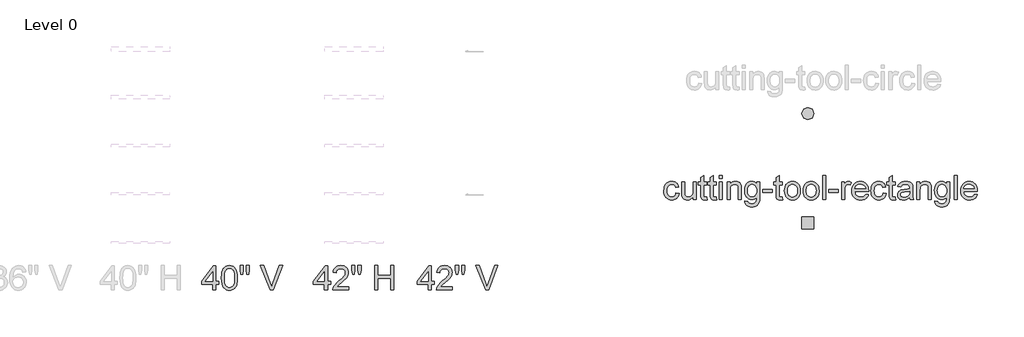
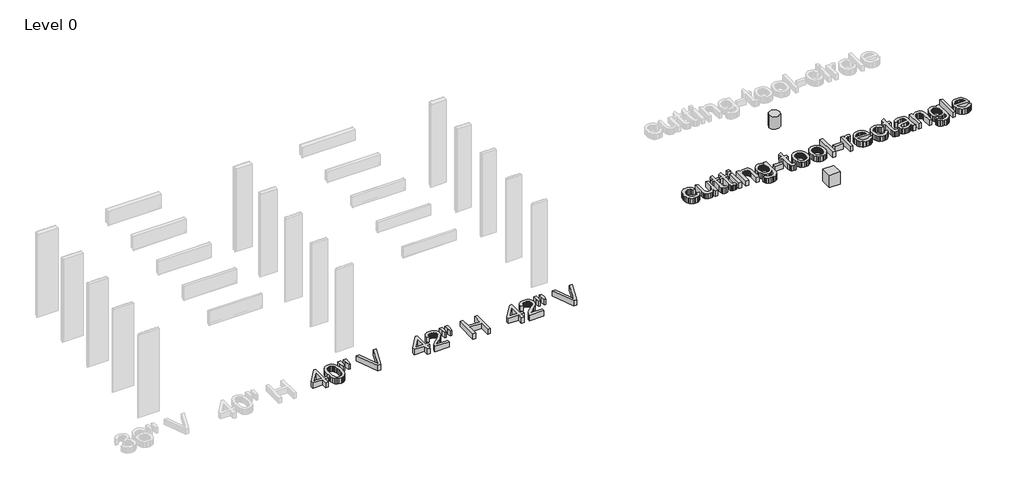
# One storey, part 4 of 5: 6 proxies.
"""IFC4 building model written with IfcOpenShell, lengths in millimetres."""

from ifc_helpers import new_model, si_unit, origin, origin_with_axes, place, context, project, spatial, polyline, outline, extrude, transform, mapped, element, save
from components import kingspan_ks_cutting_tool_circle_cutting_tool_circle_f6fe257a, kingspan_ks_cutting_tool_rectangle_cutting_tool_rectangle_f435e5aa

model = new_model("IFC4")

# Units and contexts
model_context = context("Model", 3, world=origin())
ifc_project = project(units=[si_unit("LENGTHUNIT", "METRE", prefix="MILLI")], contexts=[model_context])

# Site, building, storey
site = spatial("IfcSite", under=ifc_project)
building = spatial("IfcBuilding", under=site)
storey = spatial("IfcBuildingStorey", under=building, Name="Level 0", Elevation=0.0)

# Proxies
placement = place(None, origin())
element("IfcBuildingElementProxy", 1, Name="24\" Arial", ObjectType="24\" Arial", at=placement, inside=storey, context=model_context, shape_type="SweptSolid", body=[
    extrude(outline(polyline([(-11980.2863907, 7226.0033745), (-11980.2863907, 7368.7691999), (-12256.3003197, 7368.7691999), (-12256.3003197, 7444.9109734), (-11961.2509473, 7825.619841), (-11904.1446171, 7825.619841), (-11904.1446171, 7444.9109734), (-11828.0028436, 7444.9109734), (-11828.0028436, 7368.7691999), (-11904.1446171, 7368.7691999), (-11904.1446171, 7226.0033745), (-11980.2863907, 7226.0033745)]), holes=[polyline([(-11980.2863907, 7444.9109734), (-11980.2863907, 7680.1771564), (-12162.6102468, 7444.9109734), (-11980.2863907, 7444.9109734)])]), origin_with_axes(), (0.0, 0.0, 1.0), 152.4),
    extrude(outline(polyline([(-11761.3787918, 7525.6628934), (-11755.7834124, 7623.1637728), (-11748.7891882, 7664.5110237), (-11738.9972744, 7700.9228154), (-11726.4494968, 7732.6965767), (-11711.1876813, 7760.1297365), (-11693.211828, 7783.2222946), (-11672.521937, 7801.9742512), (-11649.0482982, 7816.4831999), (-11622.7212018, 7826.8467348), (-11593.5406478, 7833.0648557), (-11561.5066363, 7835.1375627), (-11514.5872427, 7830.2299874), (-11472.5754243, 7815.5072617), (-11437.4416469, 7791.5456538), (-11411.1563765, 7758.921432), (-11391.3030039, 7717.9134358), (-11375.4649202, 7668.8005047), (-11365.0920907, 7606.4334026), (-11361.6344808, 7525.6628934), (-11367.1740923, 7428.7196929), (-11374.0986066, 7387.5118618), (-11383.7929266, 7351.1465433), (-11396.2431104, 7319.35884), (-11411.435216, 7291.8838544), (-11429.3692433, 7268.7215863), (-11450.0451925, 7249.872036), (-11473.5467152, 7235.2654933), (-11499.9574634, 7224.8322486), (-11529.2774371, 7218.5723018), (-11561.5066363, 7216.4856528), (-11603.4440975, 7220.1105664), (-11640.6226979, 7230.985307), (-11673.0424374, 7249.1098747), (-11700.703316, 7274.4842694), (-11727.2488367, 7320.3533676), (-11746.2099228, 7377.506171), (-11757.5865746, 7445.9426796), (-11761.3787918, 7525.6628934)]), holes=[polyline([(-11685.2370183, 7525.8116078), (-11683.0063023, 7459.6197572), (-11676.3141542, 7406.0407467), (-11665.1605741, 7365.0745765), (-11649.5455619, 7336.7212464), (-11630.658833, 7317.4302001), (-11609.6901024, 7303.6508814), (-11586.6393701, 7295.3832901), (-11561.5066363, 7292.6274264), (-11536.3739025, 7295.3925848), (-11513.3231703, 7303.68806), (-11492.3544397, 7317.513852), (-11473.4677107, 7336.8699608), (-11457.8526985, 7365.2697641), (-11446.6991184, 7406.2266397), (-11440.0069704, 7459.7405876), (-11437.7762543, 7525.8116078), (-11439.9326132, 7590.2514168), (-11446.4016896, 7642.8870203), (-11457.1834837, 7683.7184181), (-11472.2779955, 7712.7456103), (-11490.8487063, 7732.9800636), (-11512.0590978, 7747.4332444), (-11535.90917, 7756.105153), (-11562.3989227, 7758.9957892), (-11587.4015315, 7756.449055), (-11610.0618884, 7748.8088527), (-11630.3799935, 7736.075182), (-11648.3558467, 7718.2480432), (-11664.4913593, 7686.6462329), (-11676.0167254, 7644.0395569), (-11682.9319451, 7590.4280152), (-11685.2370183, 7525.8116078)])]), origin_with_axes(), (0.0, 0.0, 1.0), 152.4),
    extrude(outline(polyline([(-11276.4211288, 7616.2299638), (-11295.010429, 7733.8630553), (-11295.010429, 7835.1375627), (-11218.8686555, 7835.1375627), (-11218.8686555, 7733.8630553), (-11235.5246684, 7616.2299638), (-11276.4211288, 7616.2299638)])), origin_with_axes(), (0.0, 0.0, 1.0), 152.4),
    extrude(outline(polyline([(-11124.583725, 7616.2299638), (-11142.726882, 7733.8630553), (-11142.726882, 7835.1375627), (-11066.5851084, 7835.1375627), (-11066.5851084, 7733.8630553), (-11084.4308366, 7616.2299638), (-11124.583725, 7616.2299638)])), origin_with_axes(), (0.0, 0.0, 1.0), 152.4),
    extrude(outline(polyline([(-10544.0027019, 7226.0033745), (-10786.4071762, 7835.1375627), (-10704.9116842, 7835.1375627), (-10542.6642723, 7396.2813641), (-10509.7983896, 7297.3862872), (-10477.3786501, 7396.2813641), (-10314.685095, 7835.1375627), (-10233.189603, 7835.1375627), (-10465.3327836, 7226.0033745), (-10544.0027019, 7226.0033745)])), origin_with_axes(), (0.0, 0.0, 1.0), 152.4),
])
element("IfcBuildingElementProxy", 2, Name="24\" Arial", ObjectType="24\" Arial", at=placement, inside=storey, context=model_context, shape_type="SweptSolid", body=[
    extrude(outline(polyline([(-9186.2863907, 7226.0033745), (-9186.2863907, 7368.7691999), (-9462.3003197, 7368.7691999), (-9462.3003197, 7444.9109734), (-9167.2509473, 7825.619841), (-9110.1446171, 7825.619841), (-9110.1446171, 7444.9109734), (-9034.0028436, 7444.9109734), (-9034.0028436, 7368.7691999), (-9110.1446171, 7368.7691999), (-9110.1446171, 7226.0033745), (-9186.2863907, 7226.0033745)]), holes=[polyline([(-9186.2863907, 7444.9109734), (-9186.2863907, 7680.1771564), (-9368.6102468, 7444.9109734), (-9186.2863907, 7444.9109734)])]), origin_with_axes(), (0.0, 0.0, 1.0), 152.4),
    extrude(outline(polyline([(-8577.1522025, 7302.1451481), (-8577.1522025, 7226.0033745), (-8976.8965135, 7226.0033745), (-8975.2234765, 7252.8091454), (-8968.7172214, 7278.4995582), (-8949.9420282, 7319.5261437), (-8922.4670426, 7359.3258354), (-8882.7231188, 7400.9844571), (-8827.1411113, 7447.5878326), (-8744.9764045, 7520.5694251), (-8695.6775804, 7574.441217), (-8681.2987567, 7596.4509484), (-8671.0281684, 7618.163251), (-8664.8658154, 7639.5781248), (-8662.8116977, 7660.6955698), (-8664.7496323, 7680.5628844), (-8670.5634359, 7698.8222245), (-8680.2531086, 7715.4735901), (-8693.8186504, 7730.5169813), (-8710.5071946, 7742.9764597), (-8729.5658747, 7751.8760872), (-8750.9946904, 7757.2158637), (-8774.793642, 7758.9957892), (-8799.8659606, 7757.2576896), (-8822.2893039, 7752.0433909), (-8842.063672, 7743.3528931), (-8859.1890648, 7731.1861961), (-8873.0427407, 7715.9522646), (-8883.0019583, 7698.0600632), (-8889.0667175, 7677.5095918), (-8891.2370183, 7654.3008506), (-8967.3787918, 7663.8185723), (-8960.8307108, 7703.1256475), (-8948.9196167, 7737.4693796), (-8931.6455095, 7766.8497685), (-8909.0083892, 7791.2668143), (-8881.5287563, 7810.4602667), (-8849.727111, 7824.1698756), (-8813.6034534, 7832.3956409), (-8773.1577836, 7835.1375627), (-8732.3496224, 7832.0889174), (-8696.0307771, 7822.9429818), (-8664.2012479, 7807.6997556), (-8636.8610347, 7786.359239), (-8614.9024238, 7760.5015225), (-8599.2177018, 7731.7066965), (-8589.8068686, 7699.9747611), (-8586.6699242, 7665.3057163), (-8590.0531768, 7628.8892772), (-8600.2029347, 7593.1048744), (-8618.2159666, 7556.7070247), (-8645.1890412, 7518.4502449), (-8688.1860925, 7472.7763344), (-8754.2710546, 7414.1270923), (-8841.863837, 7340.8852496), (-8876.2168637, 7302.1451481), (-8577.1522025, 7302.1451481)])), origin_with_axes(), (0.0, 0.0, 1.0), 152.4),
    extrude(outline(polyline([(-8482.4211288, 7616.2299638), (-8501.010429, 7733.8630553), (-8501.010429, 7835.1375627), (-8424.8686555, 7835.1375627), (-8424.8686555, 7733.8630553), (-8441.5246684, 7616.2299638), (-8482.4211288, 7616.2299638)])), origin_with_axes(), (0.0, 0.0, 1.0), 152.4),
    extrude(outline(polyline([(-8330.583725, 7616.2299638), (-8348.726882, 7733.8630553), (-8348.726882, 7835.1375627), (-8272.5851084, 7835.1375627), (-8272.5851084, 7733.8630553), (-8290.4308366, 7616.2299638), (-8330.583725, 7616.2299638)])), origin_with_axes(), (0.0, 0.0, 1.0), 152.4),
    extrude(outline(polyline([(-7929.9471276, 7226.0033745), (-7929.9471276, 7835.1375627), (-7853.8053541, 7835.1375627), (-7853.8053541, 7587.6767987), (-7530.2028167, 7587.6767987), (-7530.2028167, 7835.1375627), (-7454.0610431, 7835.1375627), (-7454.0610431, 7226.0033745), (-7530.2028167, 7226.0033745), (-7530.2028167, 7511.5350252), (-7853.8053541, 7511.5350252), (-7853.8053541, 7226.0033745), (-7929.9471276, 7226.0033745)])), origin_with_axes(), (0.0, 0.0, 1.0), 152.4),
])
element("IfcBuildingElementProxy", 3, Name="24\" Arial", ObjectType="24\" Arial", at=placement, inside=storey, context=model_context, shape_type="SweptSolid", body=[
    extrude(outline(polyline([(-6595.4863907, 7226.0033745), (-6595.4863907, 7368.7691999), (-6871.5003197, 7368.7691999), (-6871.5003197, 7444.9109734), (-6576.4509473, 7825.619841), (-6519.3446171, 7825.619841), (-6519.3446171, 7444.9109734), (-6443.2028436, 7444.9109734), (-6443.2028436, 7368.7691999), (-6519.3446171, 7368.7691999), (-6519.3446171, 7226.0033745), (-6595.4863907, 7226.0033745)]), holes=[polyline([(-6595.4863907, 7444.9109734), (-6595.4863907, 7680.1771564), (-6777.8102468, 7444.9109734), (-6595.4863907, 7444.9109734)])]), origin_with_axes(), (0.0, 0.0, 1.0), 152.4),
    extrude(outline(polyline([(-5986.3522025, 7302.1451481), (-5986.3522025, 7226.0033745), (-6386.0965135, 7226.0033745), (-6384.4234765, 7252.8091454), (-6377.9172214, 7278.4995582), (-6359.1420282, 7319.5261437), (-6331.6670426, 7359.3258354), (-6291.9231188, 7400.9844571), (-6236.3411113, 7447.5878326), (-6154.1764045, 7520.5694251), (-6104.8775804, 7574.441217), (-6090.4987567, 7596.4509484), (-6080.2281684, 7618.163251), (-6074.0658154, 7639.5781248), (-6072.0116977, 7660.6955698), (-6073.9496323, 7680.5628844), (-6079.7634359, 7698.8222245), (-6089.4531086, 7715.4735901), (-6103.0186504, 7730.5169813), (-6119.7071946, 7742.9764597), (-6138.7658747, 7751.8760872), (-6160.1946904, 7757.2158637), (-6183.993642, 7758.9957892), (-6209.0659606, 7757.2576896), (-6231.4893039, 7752.0433909), (-6251.263672, 7743.3528931), (-6268.3890648, 7731.1861961), (-6282.2427407, 7715.9522646), (-6292.2019583, 7698.0600632), (-6298.2667175, 7677.5095918), (-6300.4370183, 7654.3008506), (-6376.5787918, 7663.8185723), (-6370.0307108, 7703.1256475), (-6358.1196167, 7737.4693796), (-6340.8455095, 7766.8497685), (-6318.2083892, 7791.2668143), (-6290.7287563, 7810.4602667), (-6258.927111, 7824.1698756), (-6222.8034534, 7832.3956409), (-6182.3577836, 7835.1375627), (-6141.5496224, 7832.0889174), (-6105.2307771, 7822.9429818), (-6073.4012479, 7807.6997556), (-6046.0610347, 7786.359239), (-6024.1024238, 7760.5015225), (-6008.4177018, 7731.7066965), (-5999.0068686, 7699.9747611), (-5995.8699242, 7665.3057163), (-5999.2531768, 7628.8892772), (-6009.4029347, 7593.1048744), (-6027.4159666, 7556.7070247), (-6054.3890412, 7518.4502449), (-6097.3860925, 7472.7763344), (-6163.4710546, 7414.1270923), (-6251.063837, 7340.8852496), (-6285.4168637, 7302.1451481), (-5986.3522025, 7302.1451481)])), origin_with_axes(), (0.0, 0.0, 1.0), 152.4),
    extrude(outline(polyline([(-5891.6211288, 7616.2299638), (-5910.210429, 7733.8630553), (-5910.210429, 7835.1375627), (-5834.0686555, 7835.1375627), (-5834.0686555, 7733.8630553), (-5850.7246684, 7616.2299638), (-5891.6211288, 7616.2299638)])), origin_with_axes(), (0.0, 0.0, 1.0), 152.4),
    extrude(outline(polyline([(-5739.783725, 7616.2299638), (-5757.926882, 7733.8630553), (-5757.926882, 7835.1375627), (-5681.7851084, 7835.1375627), (-5681.7851084, 7733.8630553), (-5699.6308366, 7616.2299638), (-5739.783725, 7616.2299638)])), origin_with_axes(), (0.0, 0.0, 1.0), 152.4),
    extrude(outline(polyline([(-5159.2027019, 7226.0033745), (-5401.6071762, 7835.1375627), (-5320.1116842, 7835.1375627), (-5157.8642723, 7396.2813641), (-5124.9983896, 7297.3862872), (-5092.5786501, 7396.2813641), (-4929.885095, 7835.1375627), (-4848.389603, 7835.1375627), (-5080.5327836, 7226.0033745), (-5159.2027019, 7226.0033745)])), origin_with_axes(), (0.0, 0.0, 1.0), 152.4),
])
element("IfcBuildingElementProxy", 4, Name="24\" Arial", ObjectType="24\" Arial", at=placement, inside=storey, context=model_context, shape_type="SweptSolid", body=[
    extrude(outline(polyline([(-396.2597045, 9648.2737674), (-320.117931, 9638.7560457), (-328.3994642, 9602.8275758), (-341.3469118, 9571.0352252), (-358.9602737, 9543.3789938), (-381.23955, 9519.8588818), (-407.2459809, 9501.0883359), (-436.0408069, 9487.6808032), (-467.6240279, 9479.6362835), (-501.9956439, 9476.954777), (-544.6999137, 9480.6958736), (-582.9892248, 9491.9191636), (-616.863577, 9510.6246469), (-646.3229705, 9536.8123235), (-670.1683953, 9569.989577), (-687.2008416, 9609.6637909), (-697.4203093, 9655.8349652), (-700.8267986, 9708.5031), (-695.0083476, 9776.2610991), (-687.7352839, 9806.7521987), (-677.5529948, 9834.9846984), (-664.3917702, 9860.3916244), (-648.1819005, 9882.4060031), (-628.9233855, 9901.0278345), (-606.6162253, 9916.2571187), (-582.2688894, 9928.0985029), (-556.8898473, 9936.5566345), (-530.4790991, 9941.6315135), (-503.0366447, 9943.3231398), (-469.255239, 9940.9994773), (-438.6990768, 9934.0284897), (-411.3681582, 9922.4101771), (-387.2624832, 9906.1445394), (-366.7910164, 9885.6033627), (-350.3627224, 9861.158433), (-337.9776011, 9832.8097502), (-329.6356527, 9800.5573144), (-405.7774262, 9791.0395927), (-419.5892762, 9824.2586722), (-441.0970965, 9848.0715657), (-469.1111719, 9862.4039161), (-502.4417871, 9867.1813663), (-528.3134456, 9864.8298198), (-551.6476647, 9857.7751804), (-572.4444443, 9846.017448), (-590.7037843, 9829.5566227), (-605.5705772, 9808.0116238), (-616.1897149, 9781.0013706), (-622.5611975, 9748.5258632), (-624.6850251, 9710.5851016), (-622.6076708, 9672.0727189), (-616.3756079, 9639.2207782), (-605.9888364, 9612.0292794), (-591.4473564, 9590.4982224), (-573.5505076, 9574.134991), (-553.0976301, 9562.4469685), (-530.0887238, 9555.434155), (-504.5237887, 9553.0965505), (-465.0958831, 9558.9335908), (-448.0448475, 9566.2298911), (-432.7690901, 9576.4447115), (-419.6961647, 9589.6895879), (-409.2536253, 9606.076056), (-401.4414719, 9625.6041158), (-396.2597045, 9648.2737674)])), origin_with_axes(), (0.0, 0.0, 1.0), 152.4),
    extrude(outline(polyline([(32.0377715, 9486.4724987), (32.0377715, 9563.3578442), (4.4884287, 9525.5565023), (-27.5967034, 9498.5555438), (-64.2176248, 9482.3549687), (-105.3743354, 9476.954777), (-142.4599892, 9480.7469942), (-176.9803197, 9492.1236459), (-205.9424493, 9509.2258021), (-226.3535009, 9530.1945327), (-240.0909937, 9555.6618739), (-249.0324471, 9586.259862), (-253.4938792, 9657.0479171), (-253.4938792, 9933.8054181), (-177.3521057, 9933.8054181), (-177.3521057, 9692.8880878), (-176.199569, 9644.7046218), (-172.7419592, 9615.2591703), (-161.644147, 9589.3642751), (-142.6272929, 9569.6782063), (-116.9554694, 9557.2419644), (-85.8927488, 9553.0965505), (-53.0454554, 9557.3349109), (-22.3173422, 9570.0499923), (3.0198739, 9590.0706685), (19.6944762, 9616.2258139), (28.9519477, 9652.0473953), (32.0377715, 9701.0673799), (32.0377715, 9933.8054181), (108.179545, 9933.8054181), (108.179545, 9486.4724987), (32.0377715, 9486.4724987)])), origin_with_axes(), (0.0, 0.0, 1.0), 152.4),
    extrude(outline(polyline([(374.6757523, 9549.9735481), (384.193474, 9484.2417826), (354.0416291, 9478.7765284), (327.2358583, 9476.954777), (290.6892942, 9480.114958), (263.4373801, 9489.5955011), (244.1788651, 9504.206691), (231.6124982, 9522.7588126), (224.6972785, 9554.6208731), (222.3922053, 9609.1618798), (222.3922053, 9857.6636446), (165.2858752, 9857.6636446), (165.2858752, 9933.8054181), (222.3922053, 9933.8054181), (222.3922053, 10042.5156455), (298.5339788, 10087.2786803), (298.5339788, 9933.8054181), (374.6757523, 9933.8054181), (374.6757523, 9857.6636446), (298.5339788, 9857.6636446), (298.5339788, 9611.3925958), (302.5492677, 9572.1319939), (315.5617778, 9558.2271973), (326.5480542, 9554.3792122), (341.5124408, 9553.0965505), (374.6757523, 9549.9735481)])), origin_with_axes(), (0.0, 0.0, 1.0), 152.4),
    extrude(outline(polyline([(612.6187946, 9549.9735481), (622.1365163, 9484.2417826), (591.9846714, 9478.7765284), (565.1789005, 9476.954777), (528.6323364, 9480.114958), (501.3804223, 9489.5955011), (482.1219074, 9504.206691), (469.5555404, 9522.7588126), (462.6403208, 9554.6208731), (460.3352475, 9609.1618798), (460.3352475, 9857.6636446), (403.2289174, 9857.6636446), (403.2289174, 9933.8054181), (460.3352475, 9933.8054181), (460.3352475, 10042.5156455), (536.4770211, 10087.2786803), (536.4770211, 9933.8054181), (612.6187946, 9933.8054181), (612.6187946, 9857.6636446), (536.4770211, 9857.6636446), (536.4770211, 9611.3925958), (540.4923099, 9572.1319939), (553.50482, 9558.2271973), (564.4910964, 9554.3792122), (579.4554831, 9553.0965505), (612.6187946, 9549.9735481)])), origin_with_axes(), (0.0, 0.0, 1.0), 152.4),
    extrude(outline(polyline([(688.7605681, 10019.4649133), (688.7605681, 10095.6066868), (764.9023416, 10095.6066868), (764.9023416, 10019.4649133), (688.7605681, 10019.4649133)])), origin_with_axes(), (0.0, 0.0, 1.0), 152.4),
    extrude(outline(polyline([(688.7605681, 9486.4724987), (688.7605681, 9933.8054181), (764.9023416, 9933.8054181), (764.9023416, 9486.4724987), (688.7605681, 9486.4724987)])), origin_with_axes(), (0.0, 0.0, 1.0), 152.4),
    extrude(outline(polyline([(879.1150019, 9486.4724987), (879.1150019, 9933.8054181), (955.2567754, 9933.8054181), (955.2567754, 9871.3453695), (981.7093496, 9902.835644), (1013.4784636, 9925.3286972), (1050.5641174, 9938.8245291), (1092.9663111, 9943.3231398), (1130.4981082, 9939.6982262), (1164.8697242, 9928.8234856), (1193.5344251, 9912.0559369), (1213.9454766, 9890.7525989), (1227.7945053, 9864.9692395), (1236.7731373, 9834.7616267), (1240.7884261, 9761.1479981), (1240.7884261, 9486.4724987), (1164.6466526, 9486.4724987), (1164.6466526, 9750.8867044), (1162.4531152, 9790.2588421), (1155.8725029, 9818.2543282), (1143.7336899, 9838.3121831), (1124.8655502, 9853.8714273), (1100.6808707, 9863.8538815), (1072.5924381, 9867.1813663), (1049.471996, 9865.3131416), (1027.996707, 9859.7084676), (1008.166571, 9850.3673442), (989.9815881, 9837.2897716), (974.7894826, 9818.9886056), (963.9379786, 9793.9767022), (957.4270762, 9762.2540614), (955.2567754, 9723.8206833), (955.2567754, 9486.4724987), (879.1150019, 9486.4724987)])), origin_with_axes(), (0.0, 0.0, 1.0), 152.4),
    extrude(outline(polyline([(1326.4479213, 9448.4016119), (1402.5896948, 9438.8838902), (1410.9920585, 9415.089586), (1427.2762855, 9398.7310018), (1459.2870604, 9386.0159205), (1501.187343, 9381.7775601), (1545.8760206, 9386.5735995), (1563.926231, 9392.5686488), (1579.1136893, 9400.9617179), (1602.1644215, 9424.0124501), (1616.2922896, 9454.7963312), (1620.4191143, 9487.5506781), (1621.4972937, 9543.5788288), (1596.1600775, 9518.5948094), (1567.885752, 9500.7490812), (1536.674317, 9490.0416443), (1502.5257726, 9486.4724987), (1460.7788517, 9490.6272073), (1424.0231579, 9503.091333), (1392.2586913, 9523.864876), (1365.4854517, 9552.9478361), (1344.2425289, 9587.8399525), (1329.0690126, 9626.0409644), (1319.9649029, 9667.5508717), (1316.9301996, 9712.3696744), (1322.3768646, 9773.8444901), (1338.7168594, 9830.3745519), (1350.8277885, 9855.8651298), (1365.3739159, 9878.2791785), (1382.3552416, 9897.616698), (1401.7717656, 9913.8776883), (1423.3121172, 9926.7600733), (1446.6649255, 9935.9617769), (1471.8301907, 9941.4827991), (1498.8079125, 9943.3231398), (1534.415717, 9939.1591365), (1566.7332154, 9926.6671268), (1595.7604076, 9905.8471106), (1621.4972937, 9876.6990879), (1621.4972937, 9933.8054181), (1697.6390672, 9933.8054181), (1697.6390672, 9547.5941176), (1692.4340632, 9458.4212447), (1685.9278081, 9425.2532859), (1676.819051, 9399.6976455), (1664.8893676, 9379.0867589), (1649.9203337, 9360.7530616), (1631.9119491, 9344.6965536), (1610.864214, 9330.9172348), (1586.9909052, 9319.8566012), (1560.5057998, 9311.9561486), (1531.4088977, 9307.2158771), (1499.7001989, 9305.6357866), (1462.3961208, 9307.8618553), (1428.856376, 9314.5400614), (1399.0809644, 9325.6704048), (1373.0698861, 9341.2528857), (1352.0593296, 9361.3060933), (1337.2854833, 9385.8486168), (1328.7483472, 9414.8804564), (1326.4479213, 9448.4016119)]), holes=[polyline([(1393.0719731, 9717.5746784), (1395.1028542, 9679.9266983), (1401.1954973, 9647.7346777), (1411.3499025, 9620.9986167), (1425.5660698, 9599.7185153), (1442.8494717, 9583.485409), (1462.2055805, 9571.890333), (1483.6343963, 9564.9332874), (1507.135919, 9562.6142722), (1530.4050755, 9564.9193454), (1551.7316501, 9571.8345651), (1571.1156429, 9583.3599312), (1588.5570538, 9599.4954437), (1602.9684087, 9620.5664155), (1613.2622337, 9646.8981592), (1619.4385287, 9678.4906748), (1621.4972937, 9715.3439624), (1619.3781135, 9750.6589854), (1613.0205728, 9781.3545673), (1602.4246717, 9807.4307082), (1587.5904102, 9828.8874079), (1569.7725659, 9845.6410147), (1550.2259168, 9857.6078767), (1528.9504628, 9864.7879939), (1505.9462038, 9867.1813663), (1483.3276728, 9864.8251725), (1462.4658307, 9857.7565911), (1443.3606774, 9845.9756221), (1426.012213, 9829.4822655), (1411.6008581, 9808.3508785), (1401.3070331, 9782.6558184), (1395.1307381, 9752.397085), (1393.0719731, 9717.5746784)])]), origin_with_axes(), (0.0, 0.0, 1.0), 152.4),
    extrude(outline(polyline([(1773.7808407, 9667.3092108), (1773.7808407, 9743.4509843), (2011.723883, 9743.4509843), (2011.723883, 9667.3092108), (1773.7808407, 9667.3092108)])), origin_with_axes(), (0.0, 0.0, 1.0), 152.4),
    extrude(outline(polyline([(2259.1846469, 9549.9735481), (2268.7023686, 9484.2417826), (2238.5505237, 9478.7765284), (2211.7447528, 9476.954777), (2175.1981887, 9480.114958), (2147.9462746, 9489.5955011), (2128.6877597, 9504.206691), (2116.1213927, 9522.7588126), (2109.2061731, 9554.6208731), (2106.9010999, 9609.1618798), (2106.9010999, 9857.6636446), (2049.7947697, 9857.6636446), (2049.7947697, 9933.8054181), (2106.9010999, 9933.8054181), (2106.9010999, 10042.5156455), (2183.0428734, 10087.2786803), (2183.0428734, 9933.8054181), (2259.1846469, 9933.8054181), (2259.1846469, 9857.6636446), (2183.0428734, 9857.6636446), (2183.0428734, 9611.3925958), (2187.0581622, 9572.1319939), (2200.0706723, 9558.2271973), (2211.0569487, 9554.3792122), (2226.0213354, 9553.0965505), (2259.1846469, 9549.9735481)])), origin_with_axes(), (0.0, 0.0, 1.0), 152.4),
    extrude(outline(polyline([(2316.290977, 9710.1389584), (2320.408507, 9768.0725124), (2332.761097, 9817.994078), (2353.3487469, 9859.9036552), (2382.1714568, 9893.8012441), (2411.1893544, 9915.4670735), (2443.2187186, 9930.9426659), (2478.2595495, 9940.2280213), (2516.3118469, 9943.3231398), (2558.319018, 9939.5541592), (2596.3016056, 9928.2472173), (2630.2596097, 9909.4023143), (2660.1930303, 9883.01945), (2684.624018, 9849.9909109), (2702.0747236, 9811.2089834), (2712.5451469, 9766.6736675), (2716.035288, 9716.3849632), (2714.4923761, 9675.6279226), (2709.8636403, 9639.4624391), (2702.1490808, 9607.8885128), (2691.3486974, 9580.9061436), (2677.5972626, 9557.5998085), (2661.0295488, 9537.0539844), (2641.645556, 9519.2686715), (2619.4452843, 9504.2438696), (2595.293136, 9492.3048916), (2570.0535137, 9483.7770501), (2543.7264173, 9478.6603453), (2516.3118469, 9476.954777), (2473.6912289, 9480.7098156), (2435.3554446, 9491.9749315), (2401.3044941, 9510.7501247), (2371.5383771, 9537.0353951), (2347.3676396, 9570.3845997), (2330.1028271, 9610.351595), (2319.7439395, 9656.9363813), (2316.290977, 9710.1389584)]), holes=[polyline([(2392.4327505, 9710.2876728), (2394.6355826, 9673.3553807), (2401.2440788, 9641.377137), (2412.2582392, 9614.3529419), (2427.6780637, 9592.2827953), (2446.4346676, 9575.1388132), (2467.4591661, 9562.8931117), (2490.7515592, 9555.5456908), (2516.3118469, 9553.0965505), (2541.7420096, 9555.5596328), (2564.9414562, 9562.9488796), (2585.9101868, 9575.264291), (2604.6482013, 9592.5058669), (2620.0680258, 9614.7944378), (2631.0821862, 9642.2508341), (2637.6906824, 9674.8750559), (2639.8935145, 9712.6671032), (2637.6767404, 9748.4282694), (2631.0264183, 9779.5699945), (2619.9425481, 9806.0922786), (2604.4251297, 9827.9951215), (2585.6174053, 9845.1391036), (2564.6626167, 9857.3848051), (2541.5607639, 9864.732226), (2516.3118469, 9867.1813663), (2490.7515592, 9864.7415206), (2467.4591661, 9857.4219837), (2446.4346676, 9845.2227554), (2427.6780637, 9828.1438359), (2412.2582392, 9806.1387518), (2401.2440788, 9779.1610299), (2394.6355826, 9747.2106702), (2392.4327505, 9710.2876728)])]), origin_with_axes(), (0.0, 0.0, 1.0), 152.4),
    extrude(outline(polyline([(2782.6593398, 9710.1389584), (2786.7768698, 9768.0725124), (2799.1294598, 9817.994078), (2819.7171097, 9859.9036552), (2848.5398196, 9893.8012441), (2877.5577172, 9915.4670735), (2909.5870814, 9930.9426659), (2944.6279122, 9940.2280213), (2982.6802097, 9943.3231398), (3024.6873808, 9939.5541592), (3062.6699684, 9928.2472173), (3096.6279725, 9909.4023143), (3126.5613931, 9883.01945), (3150.9923808, 9849.9909109), (3168.4430864, 9811.2089834), (3178.9135097, 9766.6736675), (3182.4036508, 9716.3849632), (3180.8607389, 9675.6279226), (3176.2320031, 9639.4624391), (3168.5174436, 9607.8885128), (3157.7170602, 9580.9061436), (3143.9656253, 9557.5998085), (3127.3979116, 9537.0539844), (3108.0139188, 9519.2686715), (3085.8136471, 9504.2438696), (3061.6614988, 9492.3048916), (3036.4218765, 9483.7770501), (3010.0947801, 9478.6603453), (2982.6802097, 9476.954777), (2940.0595917, 9480.7098156), (2901.7238074, 9491.9749315), (2867.6728568, 9510.7501247), (2837.9067399, 9537.0353951), (2813.7360024, 9570.3845997), (2796.4711899, 9610.351595), (2786.1123023, 9656.9363813), (2782.6593398, 9710.1389584)]), holes=[polyline([(2858.8011133, 9710.2876728), (2861.0039454, 9673.3553807), (2867.6124416, 9641.377137), (2878.626602, 9614.3529419), (2894.0464265, 9592.2827953), (2912.8030303, 9575.1388132), (2933.8275288, 9562.8931117), (2957.119922, 9555.5456908), (2982.6802097, 9553.0965505), (3008.1103723, 9555.5596328), (3031.309819, 9562.9488796), (3052.2785496, 9575.264291), (3071.0165641, 9592.5058669), (3086.4363886, 9614.7944378), (3097.450549, 9642.2508341), (3104.0590452, 9674.8750559), (3106.2618773, 9712.6671032), (3104.0451032, 9748.4282694), (3097.3947811, 9779.5699945), (3086.3109109, 9806.0922786), (3070.7934925, 9827.9951215), (3051.9857681, 9845.1391036), (3031.0309795, 9857.3848051), (3007.9291267, 9864.732226), (2982.6802097, 9867.1813663), (2957.119922, 9864.7415206), (2933.8275288, 9857.4219837), (2912.8030303, 9845.2227554), (2894.0464265, 9828.1438359), (2878.626602, 9806.1387518), (2867.6124416, 9779.1610299), (2861.0039454, 9747.2106702), (2858.8011133, 9710.2876728)])]), origin_with_axes(), (0.0, 0.0, 1.0), 152.4),
    extrude(outline(polyline([(3268.063146, 9486.4724987), (3268.063146, 10095.6066868), (3344.2049195, 10095.6066868), (3344.2049195, 9486.4724987), (3268.063146, 9486.4724987)])), origin_with_axes(), (0.0, 0.0, 1.0), 152.4),
    extrude(outline(polyline([(3420.346693, 9667.3092108), (3420.346693, 9743.4509843), (3658.2897353, 9743.4509843), (3658.2897353, 9667.3092108), (3420.346693, 9667.3092108)])), origin_with_axes(), (0.0, 0.0, 1.0), 152.4),
    extrude(outline(polyline([(3743.9492305, 9486.4724987), (3743.9492305, 9933.8054181), (3810.5732823, 9933.8054181), (3810.5732823, 9867.6275095), (3835.1855157, 9905.995825), (3857.8644619, 9928.600414), (3880.6177654, 9939.6424583), (3905.4530704, 9943.3231398), (3943.3752428, 9937.4489209), (3981.8922727, 9919.8262644), (3956.4621101, 9851.5663541), (3929.6935178, 9863.2776132), (3902.9249256, 9867.1813663), (3880.1902115, 9863.4263276), (3859.8721064, 9852.1612117), (3843.4577543, 9834.2411263), (3832.4342993, 9810.5211793), (3823.1768278, 9767.9888605), (3820.091004, 9721.5899673), (3820.091004, 9486.4724987), (3743.9492305, 9486.4724987)])), origin_with_axes(), (0.0, 0.0, 1.0), 152.4),
    extrude(outline(polyline([(4342.6734105, 9619.7206023), (4417.32804, 9610.2028806), (4405.8816784, 9580.3019913), (4390.4293227, 9553.9516583), (4370.9709727, 9531.1518816), (4347.5066286, 9511.9026613), (4320.2779511, 9496.6129619), (4289.5266013, 9485.6917481), (4255.2525791, 9479.1390198), (4217.4558845, 9476.954777), (4170.2111781, 9480.7237576), (4128.1157079, 9492.0306994), (4091.1694738, 9510.8756025), (4059.3724758, 9537.2584667), (4033.8028935, 9570.4450149), (4015.538906, 9609.7009695), (4004.5805136, 9655.0263307), (4000.9277161, 9706.4210983), (4004.6176922, 9759.5586129), (4015.6876204, 9806.3943547), (4034.1375009, 9846.9283237), (4059.9673334, 9881.16052), (4091.6806795, 9908.3566661), (4127.7811005, 9927.7824848), (4168.2685963, 9939.437976), (4213.1431669, 9943.3231398), (4256.5724194, 9939.4472707), (4295.8469634, 9927.8196634), (4330.9667987, 9908.440318), (4361.9319255, 9881.3092344), (4387.2087264, 9847.1513953), (4405.2635842, 9806.6917835), (4416.0964989, 9759.9303989), (4419.7074704, 9706.8672415), (4419.2613272, 9686.3446542), (4077.0694896, 9686.3446542), (4081.4798011, 9655.960443), (4090.2493034, 9629.3498598), (4103.3779967, 9606.5129045), (4120.8658808, 9587.4495772), (4141.7463122, 9572.420128), (4165.0526473, 9561.6848072), (4190.7848861, 9555.2436147), (4218.9430285, 9553.0965505), (4259.4677029, 9557.0746607), (4293.597658, 9569.0089914), (4321.3328939, 9589.6431146), (4342.6734105, 9619.7206023)]), holes=[polyline([(4077.0694896, 9762.4864277), (4343.5656969, 9762.4864277), (4333.2672246, 9802.7136732), (4324.4094231, 9818.5331677), (4313.0792446, 9831.4899099), (4292.3149963, 9847.1049221), (4268.6879958, 9858.2585022), (4242.1982431, 9864.9506502), (4212.8457381, 9867.1813663), (4186.0724985, 9865.4014408), (4161.5206803, 9860.0616643), (4139.1902835, 9851.1620368), (4119.081308, 9838.7025584), (4102.2068708, 9823.2594973), (4089.5800886, 9805.4091218), (4081.2009616, 9785.1514319), (4077.0694896, 9762.4864277)])]), origin_with_axes(), (0.0, 0.0, 1.0), 152.4),
    extrude(outline(polyline([(4781.3808946, 9648.2737674), (4857.5226682, 9638.7560457), (4849.2411349, 9602.8275758), (4836.2936874, 9571.0352252), (4818.6803254, 9543.3789938), (4796.4010492, 9519.8588818), (4770.3946182, 9501.0883359), (4741.5997923, 9487.6808032), (4710.0165713, 9479.6362835), (4675.6449552, 9476.954777), (4632.9406854, 9480.6958736), (4594.6513744, 9491.9191636), (4560.7770221, 9510.6246469), (4531.3176287, 9536.8123235), (4507.4722039, 9569.989577), (4490.4397576, 9609.6637909), (4480.2202898, 9655.8349652), (4476.8138006, 9708.5031), (4482.6322515, 9776.2610991), (4489.9053152, 9806.7521987), (4500.0876044, 9834.9846984), (4513.2488289, 9860.3916244), (4529.4586987, 9882.4060031), (4548.7172137, 9901.0278345), (4571.0243739, 9916.2571187), (4595.3717098, 9928.0985029), (4620.7507518, 9936.5566345), (4647.1615001, 9941.6315135), (4674.6039544, 9943.3231398), (4708.3853602, 9940.9994773), (4738.9415223, 9934.0284897), (4766.2724409, 9922.4101771), (4790.3781159, 9906.1445394), (4810.8495827, 9885.6033627), (4827.2778768, 9861.158433), (4839.662998, 9832.8097502), (4848.0049465, 9800.5573144), (4771.863173, 9791.0395927), (4758.0513229, 9824.2586722), (4736.5435026, 9848.0715657), (4708.5294273, 9862.4039161), (4675.198812, 9867.1813663), (4649.3271535, 9864.8298198), (4625.9929345, 9857.7751804), (4605.1961549, 9846.017448), (4586.9368148, 9829.5566227), (4572.070022, 9808.0116238), (4561.4508843, 9781.0013706), (4555.0794016, 9748.5258632), (4552.9555741, 9710.5851016), (4555.0329284, 9672.0727189), (4561.2649913, 9639.2207782), (4571.6517627, 9612.0292794), (4586.1932428, 9590.4982224), (4604.0900915, 9574.134991), (4624.5429691, 9562.4469685), (4647.5518754, 9555.434155), (4673.1168104, 9553.0965505), (4712.5447161, 9558.9335908), (4729.5957517, 9566.2298911), (4744.8715091, 9576.4447115), (4757.9444344, 9589.6895879), (4768.3869738, 9606.076056), (4776.1991272, 9625.6041158), (4781.3808946, 9648.2737674)])), origin_with_axes(), (0.0, 0.0, 1.0), 152.4),
    extrude(outline(polyline([(5085.9479887, 9549.9735481), (5095.4657104, 9484.2417826), (5065.3138655, 9478.7765284), (5038.5080947, 9476.954777), (5001.9615305, 9480.114958), (4974.7096165, 9489.5955011), (4955.4511015, 9504.206691), (4942.8847346, 9522.7588126), (4935.9695149, 9554.6208731), (4933.6644417, 9609.1618798), (4933.6644417, 9857.6636446), (4876.5581115, 9857.6636446), (4876.5581115, 9933.8054181), (4933.6644417, 9933.8054181), (4933.6644417, 10042.5156455), (5009.8062152, 10087.2786803), (5009.8062152, 9933.8054181), (5085.9479887, 9933.8054181), (5085.9479887, 9857.6636446), (5009.8062152, 9857.6636446), (5009.8062152, 9611.3925958), (5013.821504, 9572.1319939), (5026.8340142, 9558.2271973), (5037.8202906, 9554.3792122), (5052.7846772, 9553.0965505), (5085.9479887, 9549.9735481)])), origin_with_axes(), (0.0, 0.0, 1.0), 152.4),
    extrude(outline(polyline([(5447.6214129, 9543.5788288), (5411.2421525, 9512.3859831), (5373.7847126, 9491.9749315), (5334.3939856, 9480.7098156), (5292.2148635, 9476.954777), (5258.3126273, 9479.213377), (5228.583689, 9485.9891769), (5203.0280485, 9497.2821767), (5181.645706, 9513.0923765), (5164.7619741, 9532.4159541), (5152.7021656, 9554.2490871), (5145.4662805, 9578.5917757), (5143.0543188, 9605.4440198), (5146.6978217, 9637.0086515), (5157.6283302, 9665.6733524), (5174.4888254, 9690.2112286), (5195.9222885, 9709.3953864), (5221.1107903, 9723.8950405), (5249.2364014, 9734.3794058), (5315.1168813, 9745.8304147), (5392.9688704, 9757.8762812), (5447.1752697, 9772.0041494), (5447.6214129, 9788.9575911), (5442.3792303, 9822.9388318), (5435.826502, 9835.5237881), (5426.6526823, 9845.1716348), (5410.7960093, 9854.8008923), (5391.4817264, 9861.6789334), (5342.4803311, 9867.1813663), (5297.1224387, 9863.5192741), (5265.4462712, 9852.5329977), (5243.8455044, 9832.2148926), (5228.7138141, 9800.5573144), (5152.5720405, 9810.0750361), (5165.789033, 9851.7150685), (5185.5122804, 9884.4322368), (5213.5821237, 9909.4534349), (5251.8389035, 9928.0055564), (5298.628172, 9939.4937439), (5352.2954816, 9943.3231398), (5403.7692538, 9939.9398871), (5444.5727677, 9929.7901292), (5475.3380595, 9914.5283138), (5496.6971654, 9895.8088885), (5510.8622121, 9872.6652098), (5520.0453264, 9844.130634), (5523.7631864, 9777.5065822), (5523.7631864, 9682.7755085), (5527.6297609, 9550.4940485), (5533.3552653, 9517.7954695), (5542.7986298, 9486.4724987), (5466.6568563, 9486.4724987), (5454.4622754, 9512.9436621), (5447.6214129, 9543.5788288)]), holes=[polyline([(5447.6214129, 9695.8623758), (5396.4636588, 9683.1844731), (5324.7833174, 9672.5142148), (5259.2746235, 9660.1709195), (5242.2282353, 9651.7313772), (5229.6061005, 9640.0944753), (5221.7985944, 9626.1525002), (5219.1960924, 9610.7977382), (5224.8658289, 9588.1559706), (5241.8750386, 9569.6038491), (5269.8519353, 9557.2233751), (5308.4247332, 9553.0965505), (5349.3211936, 9557.650929), (5385.4587931, 9571.3140647), (5414.7555302, 9591.4462768), (5435.1294032, 9615.4078847), (5444.1638031, 9640.0944753), (5447.1752697, 9674.2987876), (5447.6214129, 9695.8623758)])]), origin_with_axes(), (0.0, 0.0, 1.0), 152.4),
    extrude(outline(polyline([(5628.458125, 9486.4724987), (5628.458125, 9933.8054181), (5704.5998985, 9933.8054181), (5704.5998985, 9871.3453695), (5731.0524727, 9902.835644), (5762.8215867, 9925.3286972), (5799.9072405, 9938.8245291), (5842.3094342, 9943.3231398), (5879.8412313, 9939.6982262), (5914.2128473, 9928.8234856), (5942.8775482, 9912.0559369), (5963.2885998, 9890.7525989), (5977.1376284, 9864.9692395), (5986.1162604, 9834.7616267), (5990.1315492, 9761.1479981), (5990.1315492, 9486.4724987), (5913.9897757, 9486.4724987), (5913.9897757, 9750.8867044), (5911.7962383, 9790.2588421), (5905.215626, 9818.2543282), (5893.076813, 9838.3121831), (5874.2086733, 9853.8714273), (5850.0239938, 9863.8538815), (5821.9355612, 9867.1813663), (5798.8151192, 9865.3131416), (5777.3398301, 9859.7084676), (5757.5096942, 9850.3673442), (5739.3247113, 9837.2897716), (5724.1326057, 9818.9886056), (5713.2811017, 9793.9767022), (5706.7701993, 9762.2540614), (5704.5998985, 9723.8206833), (5704.5998985, 9486.4724987), (5628.458125, 9486.4724987)])), origin_with_axes(), (0.0, 0.0, 1.0), 152.4),
    extrude(outline(polyline([(6075.7910444, 9448.4016119), (6151.932818, 9438.8838902), (6160.3351816, 9415.089586), (6176.6194086, 9398.7310018), (6208.6301835, 9386.0159205), (6250.5304661, 9381.7775601), (6295.2191437, 9386.5735995), (6313.2693542, 9392.5686488), (6328.4568124, 9400.9617179), (6351.5075446, 9424.0124501), (6365.6354128, 9454.7963312), (6369.7622374, 9487.5506781), (6370.8404168, 9543.5788288), (6345.5032007, 9518.5948094), (6317.2288751, 9500.7490812), (6286.0174401, 9490.0416443), (6251.8688957, 9486.4724987), (6210.1219748, 9490.6272073), (6173.3662811, 9503.091333), (6141.6018144, 9523.864876), (6114.8285748, 9552.9478361), (6093.585652, 9587.8399525), (6078.4121358, 9626.0409644), (6069.308026, 9667.5508717), (6066.2733227, 9712.3696744), (6071.7199877, 9773.8444901), (6088.0599825, 9830.3745519), (6100.1709116, 9855.8651298), (6114.717039, 9878.2791785), (6131.6983647, 9897.616698), (6151.1148887, 9913.8776883), (6172.6552403, 9926.7600733), (6196.0080487, 9935.9617769), (6221.1733138, 9941.4827991), (6248.1510357, 9943.3231398), (6283.7588401, 9939.1591365), (6316.0763385, 9926.6671268), (6345.1035307, 9905.8471106), (6370.8404168, 9876.6990879), (6370.8404168, 9933.8054181), (6446.9821903, 9933.8054181), (6446.9821903, 9547.5941176), (6441.7771863, 9458.4212447), (6435.2709312, 9425.2532859), (6426.1621741, 9399.6976455), (6414.2324907, 9379.0867589), (6399.2634568, 9360.7530616), (6381.2550722, 9344.6965536), (6360.2073371, 9330.9172348), (6336.3340284, 9319.8566012), (6309.8489229, 9311.9561486), (6280.7520208, 9307.2158771), (6249.0433221, 9305.6357866), (6211.7392439, 9307.8618553), (6178.1994991, 9314.5400614), (6148.4240875, 9325.6704048), (6122.4130093, 9341.2528857), (6101.4024528, 9361.3060933), (6086.6286064, 9385.8486168), (6078.0914703, 9414.8804564), (6075.7910444, 9448.4016119)]), holes=[polyline([(6142.4150963, 9717.5746784), (6144.4459773, 9679.9266983), (6150.5386204, 9647.7346777), (6160.6930257, 9620.9986167), (6174.909193, 9599.7185153), (6192.1925948, 9583.485409), (6211.5487036, 9571.890333), (6232.9775194, 9564.9332874), (6256.4790421, 9562.6142722), (6279.7481986, 9564.9193454), (6301.0747733, 9571.8345651), (6320.458766, 9583.3599312), (6337.9001769, 9599.4954437), (6352.3115319, 9620.5664155), (6362.6053568, 9646.8981592), (6368.7816518, 9678.4906748), (6370.8404168, 9715.3439624), (6368.7212366, 9750.6589854), (6362.3636959, 9781.3545673), (6351.7677948, 9807.4307082), (6336.9335333, 9828.8874079), (6319.1156891, 9845.6410147), (6299.5690399, 9857.6078767), (6278.2935859, 9864.7879939), (6255.2893269, 9867.1813663), (6232.6707959, 9864.8251725), (6211.8089538, 9857.7565911), (6192.7038006, 9845.9756221), (6175.3553362, 9829.4822655), (6160.9439812, 9808.3508785), (6150.6501562, 9782.6558184), (6144.4738613, 9752.397085), (6142.4150963, 9717.5746784)])]), origin_with_axes(), (0.0, 0.0, 1.0), 152.4),
    extrude(outline(polyline([(6561.1948506, 9486.4724987), (6561.1948506, 10095.6066868), (6637.3366241, 10095.6066868), (6637.3366241, 9486.4724987), (6561.1948506, 9486.4724987)])), origin_with_axes(), (0.0, 0.0, 1.0), 152.4),
    extrude(outline(polyline([(7064.7418137, 9619.7206023), (7139.3964433, 9610.2028806), (7127.9500817, 9580.3019913), (7112.4977259, 9553.9516583), (7093.0393759, 9531.1518816), (7069.5750318, 9511.9026613), (7042.3463544, 9496.6129619), (7011.5950045, 9485.6917481), (6977.3209823, 9479.1390198), (6939.5242878, 9476.954777), (6892.2795814, 9480.7237576), (6850.1841111, 9492.0306994), (6813.237877, 9510.8756025), (6781.4408791, 9537.2584667), (6755.8712967, 9570.4450149), (6737.6073093, 9609.7009695), (6726.6489168, 9655.0263307), (6722.9961193, 9706.4210983), (6726.6860954, 9759.5586129), (6737.7560237, 9806.3943547), (6756.2059041, 9846.9283237), (6782.0357367, 9881.16052), (6813.7490828, 9908.3566661), (6849.8495037, 9927.7824848), (6890.3369995, 9939.437976), (6935.2115701, 9943.3231398), (6978.6408227, 9939.4472707), (7017.9153666, 9927.8196634), (7053.035202, 9908.440318), (7084.0003287, 9881.3092344), (7109.2771296, 9847.1513953), (7127.3319874, 9806.6917835), (7138.1649021, 9759.9303989), (7141.7758737, 9706.8672415), (7141.3297305, 9686.3446542), (6799.1378928, 9686.3446542), (6803.5482043, 9655.960443), (6812.3177067, 9629.3498598), (6825.4463999, 9606.5129045), (6842.9342841, 9587.4495772), (6863.8147155, 9572.420128), (6887.1210506, 9561.6848072), (6912.8532893, 9555.2436147), (6941.0114318, 9553.0965505), (6981.5361062, 9557.0746607), (7015.6660613, 9569.0089914), (7043.4012971, 9589.6431146), (7064.7418137, 9619.7206023)]), holes=[polyline([(6799.1378928, 9762.4864277), (7065.6341002, 9762.4864277), (7055.3356279, 9802.7136732), (7046.4778263, 9818.5331677), (7035.1476479, 9831.4899099), (7014.3833996, 9847.1049221), (6990.7563991, 9858.2585022), (6964.2666463, 9864.9506502), (6934.9141413, 9867.1813663), (6908.1409017, 9865.4014408), (6883.5890835, 9860.0616643), (6861.2586867, 9851.1620368), (6841.1497112, 9838.7025584), (6824.275274, 9823.2594973), (6811.6484919, 9805.4091218), (6803.2693648, 9785.1514319), (6799.1378928, 9762.4864277)])]), origin_with_axes(), (0.0, 0.0, 1.0), 152.4),
])
kingspan_ks_cutting_tool_circle_cutting_tool_circle_shape = kingspan_ks_cutting_tool_circle_cutting_tool_circle_f6fe257a(model_context)
element("IfcBuildingElementProxy", 5, Name="kingspan-ks-cutting-tool-circle : cutting-tool-circle", ObjectType="kingspan-ks-cutting-tool-circle : cutting-tool-circle", at=placement, inside=storey, context=model_context, shape_type="MappedRepresentation", body=[
    mapped(kingspan_ks_cutting_tool_circle_cutting_tool_circle_shape, transform((2901.78666, 11641.2292692, 0.0), x_axis=(1.0, 0.0, 0.0), y_axis=(0.0, 1.0, 0.0), z_axis=(0.0, 0.0, 1.0))),
])
kingspan_ks_cutting_tool_rectangle_cutting_tool_rectangle_shape = kingspan_ks_cutting_tool_rectangle_cutting_tool_rectangle_f435e5aa(model_context)
element("IfcBuildingElementProxy", 6, Name="kingspan-ks-cutting-tool-rectangle : cutting-tool-rectangle", ObjectType="kingspan-ks-cutting-tool-rectangle : cutting-tool-rectangle", at=placement, inside=storey, context=model_context, shape_type="MappedRepresentation", body=[
    mapped(kingspan_ks_cutting_tool_rectangle_cutting_tool_rectangle_shape, transform((2901.78666, 8906.1027937, 0.0), x_axis=(1.0, 0.0, 0.0), y_axis=(0.0, 1.0, 0.0), z_axis=(0.0, 0.0, 1.0))),
])

save(model, "model.ifc")
